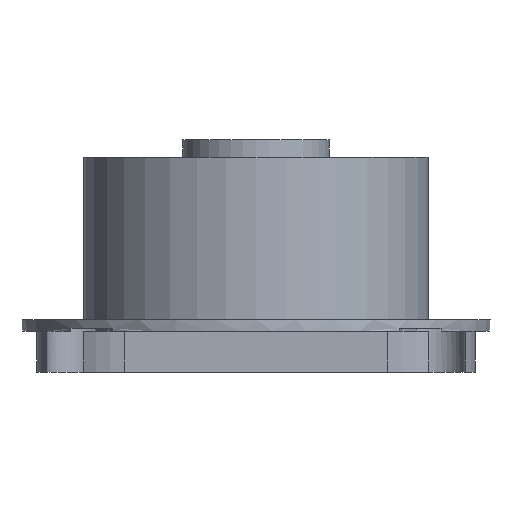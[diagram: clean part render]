
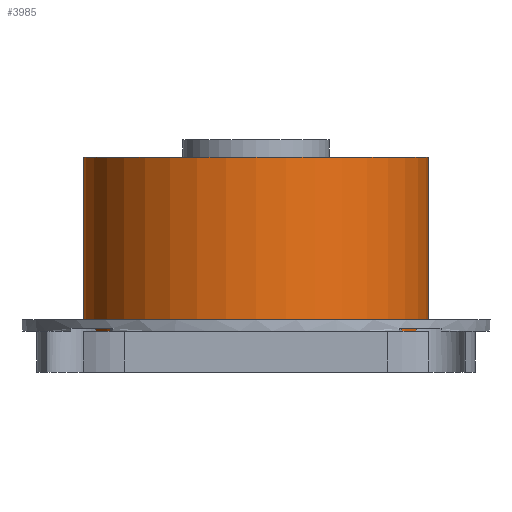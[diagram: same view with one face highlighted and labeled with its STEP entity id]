
A CAD part, left-side view. The second image highlights one B-rep face of the part: STEP entity #3985.
In plain terms, the highlighted cylindrical face has radius 5.9 mm (diameter 11.8 mm), a full revolution.
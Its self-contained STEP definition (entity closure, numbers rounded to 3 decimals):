
#1212 = PLANE('',#1213);
#1213 = AXIS2_PLACEMENT_3D('',#1214,#1215,#1216);
#1214 = CARTESIAN_POINT('',(24.,110.2,24.25));
#1215 = DIRECTION('',(0.,0.,1.));
#1216 = DIRECTION('',(1.,0.,-0.));
#3545 = EDGE_CURVE('',#3546,#3546,#3548,.T.);
#3546 = VERTEX_POINT('',#3547);
#3547 = CARTESIAN_POINT('',(21.4,110.2,24.25));
#3548 = SURFACE_CURVE('',#3549,(#3554,#3565),.PCURVE_S1.);
#3549 = CIRCLE('',#3550,5.9);
#3550 = AXIS2_PLACEMENT_3D('',#3551,#3552,#3553);
#3551 = CARTESIAN_POINT('',(15.5,110.2,24.25));
#3552 = DIRECTION('',(0.,0.,-1.));
#3553 = DIRECTION('',(1.,0.,0.));
#3554 = PCURVE('',#1212,#3555);
#3555 = DEFINITIONAL_REPRESENTATION('',(#3556),#3564);
#3556 = ( BOUNDED_CURVE() B_SPLINE_CURVE(2,(#3557,#3558,#3559,#3560,
#3561,#3562,#3563),.UNSPECIFIED.,.T.,.F.) B_SPLINE_CURVE_WITH_KNOTS((1,2
    ,2,2,2,1),(-2.094,0.,2.094,4.189,
6.283,8.378),.UNSPECIFIED.) CURVE() 
GEOMETRIC_REPRESENTATION_ITEM() RATIONAL_B_SPLINE_CURVE((1.,0.5,1.,0.5,
1.,0.5,1.)) REPRESENTATION_ITEM('') );
#3557 = CARTESIAN_POINT('',(-2.6,0.));
#3558 = CARTESIAN_POINT('',(-2.6,-10.219));
#3559 = CARTESIAN_POINT('',(-11.45,-5.11));
#3560 = CARTESIAN_POINT('',(-20.3,0.));
#3561 = CARTESIAN_POINT('',(-11.45,5.11));
#3562 = CARTESIAN_POINT('',(-2.6,10.219));
#3563 = CARTESIAN_POINT('',(-2.6,0.));
#3564 = ( GEOMETRIC_REPRESENTATION_CONTEXT(2) 
PARAMETRIC_REPRESENTATION_CONTEXT() REPRESENTATION_CONTEXT('2D SPACE',''
  ) );
#3565 = PCURVE('',#3566,#3571);
#3566 = CYLINDRICAL_SURFACE('',#3567,5.9);
#3567 = AXIS2_PLACEMENT_3D('',#3568,#3569,#3570);
#3568 = CARTESIAN_POINT('',(15.5,110.2,22.85));
#3569 = DIRECTION('',(-0.,-0.,-1.));
#3570 = DIRECTION('',(1.,0.,0.));
#3571 = DEFINITIONAL_REPRESENTATION('',(#3572),#3576);
#3572 = LINE('',#3573,#3574);
#3573 = CARTESIAN_POINT('',(-6.283,-1.4));
#3574 = VECTOR('',#3575,1.);
#3575 = DIRECTION('',(1.,-0.));
#3576 = ( GEOMETRIC_REPRESENTATION_CONTEXT(2) 
PARAMETRIC_REPRESENTATION_CONTEXT() REPRESENTATION_CONTEXT('2D SPACE',''
  ) );
#3985 = ADVANCED_FACE('',(#3986),#3566,.T.);
#3986 = FACE_BOUND('',#3987,.F.);
#3987 = EDGE_LOOP('',(#3988,#3989,#4012,#4039));
#3988 = ORIENTED_EDGE('',*,*,#3545,.T.);
#3989 = ORIENTED_EDGE('',*,*,#3990,.T.);
#3990 = EDGE_CURVE('',#3546,#3991,#3993,.T.);
#3991 = VERTEX_POINT('',#3992);
#3992 = CARTESIAN_POINT('',(21.4,110.2,30.2));
#3993 = SEAM_CURVE('',#3994,(#3998,#4005),.PCURVE_S1.);
#3994 = LINE('',#3995,#3996);
#3995 = CARTESIAN_POINT('',(21.4,110.2,22.85));
#3996 = VECTOR('',#3997,1.);
#3997 = DIRECTION('',(0.,0.,1.));
#3998 = PCURVE('',#3566,#3999);
#3999 = DEFINITIONAL_REPRESENTATION('',(#4000),#4004);
#4000 = LINE('',#4001,#4002);
#4001 = CARTESIAN_POINT('',(-6.283,0.));
#4002 = VECTOR('',#4003,1.);
#4003 = DIRECTION('',(-0.,-1.));
#4004 = ( GEOMETRIC_REPRESENTATION_CONTEXT(2) 
PARAMETRIC_REPRESENTATION_CONTEXT() REPRESENTATION_CONTEXT('2D SPACE',''
  ) );
#4005 = PCURVE('',#3566,#4006);
#4006 = DEFINITIONAL_REPRESENTATION('',(#4007),#4011);
#4007 = LINE('',#4008,#4009);
#4008 = CARTESIAN_POINT('',(-0.,0.));
#4009 = VECTOR('',#4010,1.);
#4010 = DIRECTION('',(-0.,-1.));
#4011 = ( GEOMETRIC_REPRESENTATION_CONTEXT(2) 
PARAMETRIC_REPRESENTATION_CONTEXT() REPRESENTATION_CONTEXT('2D SPACE',''
  ) );
#4012 = ORIENTED_EDGE('',*,*,#4013,.T.);
#4013 = EDGE_CURVE('',#3991,#3991,#4014,.T.);
#4014 = SURFACE_CURVE('',#4015,(#4020,#4027),.PCURVE_S1.);
#4015 = CIRCLE('',#4016,5.9);
#4016 = AXIS2_PLACEMENT_3D('',#4017,#4018,#4019);
#4017 = CARTESIAN_POINT('',(15.5,110.2,30.2));
#4018 = DIRECTION('',(0.,0.,1.));
#4019 = DIRECTION('',(1.,0.,0.));
#4020 = PCURVE('',#3566,#4021);
#4021 = DEFINITIONAL_REPRESENTATION('',(#4022),#4026);
#4022 = LINE('',#4023,#4024);
#4023 = CARTESIAN_POINT('',(-0.,-7.35));
#4024 = VECTOR('',#4025,1.);
#4025 = DIRECTION('',(-1.,0.));
#4026 = ( GEOMETRIC_REPRESENTATION_CONTEXT(2) 
PARAMETRIC_REPRESENTATION_CONTEXT() REPRESENTATION_CONTEXT('2D SPACE',''
  ) );
#4027 = PCURVE('',#4028,#4033);
#4028 = PLANE('',#4029);
#4029 = AXIS2_PLACEMENT_3D('',#4030,#4031,#4032);
#4030 = CARTESIAN_POINT('',(15.5,110.2,30.2));
#4031 = DIRECTION('',(0.,0.,1.));
#4032 = DIRECTION('',(1.,0.,-0.));
#4033 = DEFINITIONAL_REPRESENTATION('',(#4034),#4038);
#4034 = CIRCLE('',#4035,5.9);
#4035 = AXIS2_PLACEMENT_2D('',#4036,#4037);
#4036 = CARTESIAN_POINT('',(0.,0.));
#4037 = DIRECTION('',(1.,0.));
#4038 = ( GEOMETRIC_REPRESENTATION_CONTEXT(2) 
PARAMETRIC_REPRESENTATION_CONTEXT() REPRESENTATION_CONTEXT('2D SPACE',''
  ) );
#4039 = ORIENTED_EDGE('',*,*,#3990,.F.);
